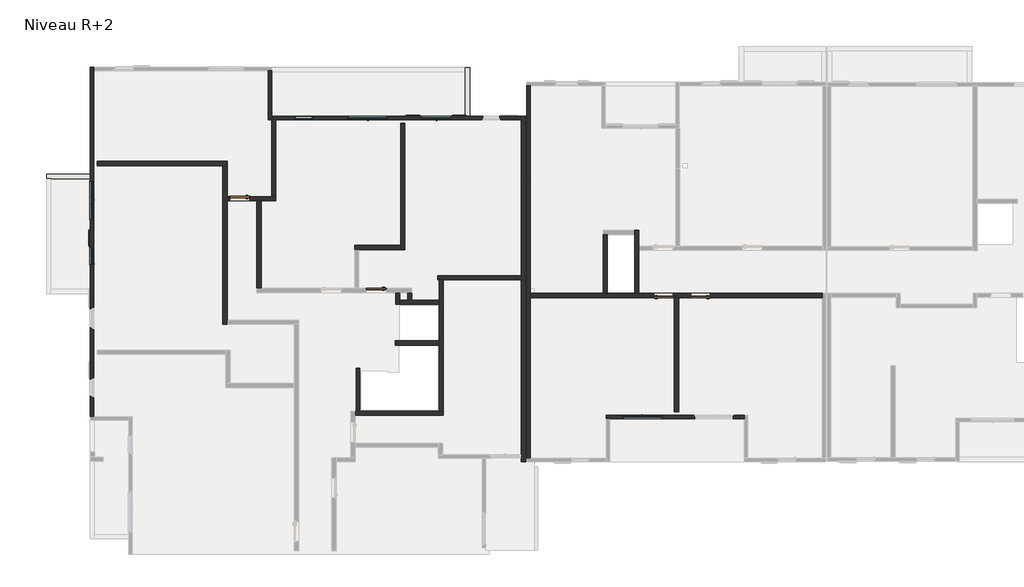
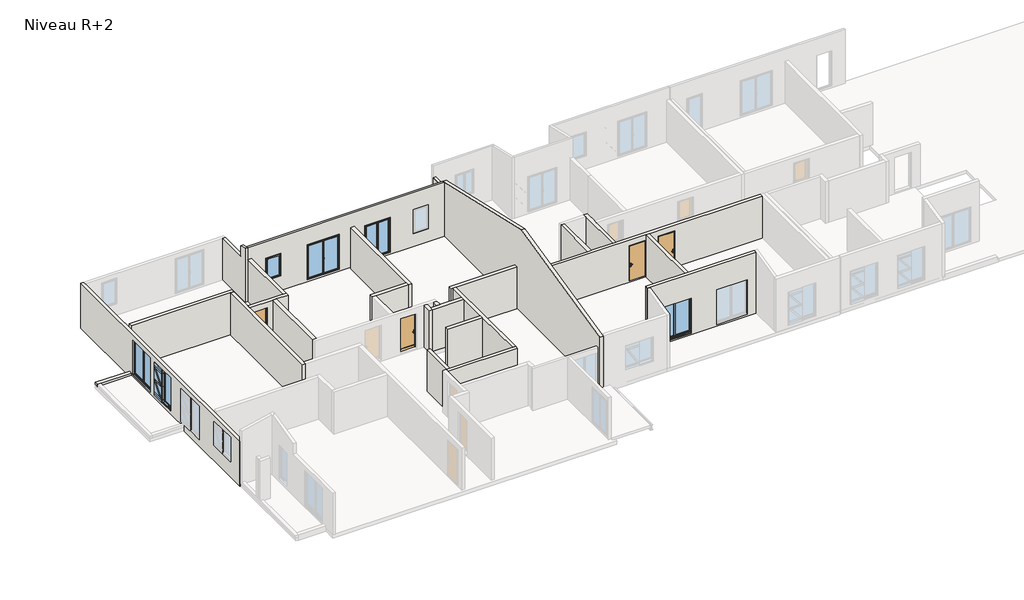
# One storey, part 3 of 7: 28 walls, 6 windows, 4 doors.
"""IFC4 building model written with IfcOpenShell, lengths in millimetres."""

from ifc_helpers import new_model, si_unit, frame, origin, place, context, project, spatial, polyline, outline, extrude, faceted_brep, transform, mapped, element, save
from components import door_88e42b76, door_c2c5d6f6, door_6208809c, window_0_80m_x_2_05m_45d8a1b5, window_1_vantail_droit_15c7afe6, window_1_40m_x_2_15m_9bc1c939, window_1_80m_x_2_15m_7d3a4370

model = new_model("IFC4")

# Units and contexts
model_context = context("Model", 3, world=origin())
ifc_project = project(units=[si_unit("LENGTHUNIT", "METRE", prefix="MILLI")], contexts=[model_context])

# Site, building, storey
site = spatial("IfcSite", under=ifc_project)
building = spatial("IfcBuilding", under=site)
storey = spatial("IfcBuildingStorey", under=building, Name="Niveau R+2", Elevation=6120.0)

# Doors
placement = place(None, origin())
door_shape = door_88e42b76(model_context)
element("IfcDoor", 1, ObjectType="Entrée (avec angle d'ouverture) : PP Avec moulures (0.90 m x 2.15 m)", at=placement, inside=storey, context=model_context, shape_type="MappedRepresentation", body=[
    mapped(door_shape, transform((31960.4628816, 22172.4973448, 6120.0), x_axis=(-1.0, 0.0, 0.0), y_axis=(0.0, -1.0, 0.0), z_axis=(0.0, 0.0, 1.0))),
])
door_2_shape = door_c2c5d6f6(model_context)
element("IfcDoor", 2, ObjectType="Entrée (avec angle d'ouverture) : PP Avec moulures (0.90 m x 2.15 m)", at=placement, inside=storey, context=model_context, shape_type="MappedRepresentation", body=[
    mapped(door_2_shape, transform((30253.8905888, 22172.4973448, 6120.0), x_axis=(1.0, 0.0, 0.0), y_axis=(0.0, 1.0, 0.0), z_axis=(0.0, 0.0, 1.0))),
])
door_3_shape = door_6208809c(model_context)
element("IfcDoor", 3, ObjectType="Entrée (avec angle d'ouverture) : PP Lisse (0.90 m x 2.15 m)", at=placement, inside=storey, context=model_context, shape_type="MappedRepresentation", body=[
    mapped(door_3_shape, transform((10498.0962852, 26677.1701287, 6120.0), x_axis=(-1.0, 0.0, 0.0), y_axis=(0.0, -1.0, 0.0), z_axis=(0.0, 0.0, 1.0))),
])
element("IfcDoor", 4, ObjectType="Entrée (avec angle d'ouverture) : PP Lisse (0.90 m x 2.15 m)", at=placement, inside=storey, context=model_context, shape_type="MappedRepresentation", body=[
    mapped(door_3_shape, transform((16855.0745996, 22408.2793913, 6120.0), x_axis=(-1.0, 0.0, 0.0), y_axis=(0.0, -1.0, 0.0), z_axis=(0.0, 0.0, 1.0))),
])

# Walls
element("IfcWall", 5, ObjectType="Ext. Voile BA 16 + Isolant 120", at=placement, inside=storey, context=model_context, shape_type="Brep", body=[
    faceted_brep([(34012.3966699, 16591.4013077, 6030.0), (27586.9796965, 16591.4013077, 6030.0), (27586.9796965, 16591.4013077, 9863.5516085), (34012.3966699, 16591.4013077, 9863.5516085), (31692.3966699, 16591.4013077, 6155.0), (33492.3966699, 16591.4013077, 6155.0), (33542.3966699, 16591.4013077, 6155.0), (33542.3966699, 16591.4013077, 8355.0), (31642.3966699, 16591.4013077, 8355.0), (31642.3966699, 16591.4013077, 6155.0), (28366.9796965, 16591.4013077, 6155.0), (30166.9796965, 16591.4013077, 6155.0), (30216.9796965, 16591.4013077, 6155.0), (30216.9796965, 16591.4013077, 8355.0), (28316.9796965, 16591.4013077, 8355.0), (28316.9796965, 16591.4013077, 6155.0), (27586.9796965, 16431.4013077, 6030.0), (34012.3966699, 16431.4013077, 6030.0), (34012.3966699, 16431.4013077, 9826.6126979), (27586.9796965, 16431.4013077, 9826.6126979), (33492.3966699, 16431.4013077, 8305.0), (33492.3966699, 16431.4013077, 6146.5916612), (31692.3966699, 16431.4013077, 6146.5916612), (31692.3966699, 16431.4013077, 8305.0), (30166.9796965, 16431.4013077, 8305.0), (30166.9796965, 16431.4013077, 6146.5916612), (28366.9796965, 16431.4013077, 6146.5916612), (28366.9796965, 16431.4013077, 8305.0), (33492.3966699, 16491.4013077, 8305.0), (33492.3966699, 16491.4013077, 6155.0), (33492.3966699, 16511.4013077, 6155.0), (31692.3966699, 16511.4013077, 6155.0), (31692.3966699, 16491.4013077, 6155.0), (31692.3966699, 16491.4013077, 8305.0), (33502.3966699, 16491.4013077, 6155.0), (33502.3966699, 16541.4013077, 6155.0), (33542.3966699, 16541.4013077, 6155.0), (31642.3966699, 16541.4013077, 6155.0), (31682.3966699, 16541.4013077, 6155.0), (31682.3966699, 16491.4013077, 6155.0), (33542.3966699, 16541.4013077, 8355.0), (31642.3966699, 16541.4013077, 8355.0), (33502.3966699, 16541.4013077, 8315.0), (31682.3966699, 16541.4013077, 8315.0), (33502.3966699, 16491.4013077, 8315.0), (31682.3966699, 16491.4013077, 8315.0), (30166.9796965, 16491.4013077, 8305.0), (30166.9796965, 16491.4013077, 6155.0), (30166.9796965, 16511.4013077, 6155.0), (28366.9796965, 16511.4013077, 6155.0), (28366.9796965, 16491.4013077, 6155.0), (28366.9796965, 16491.4013077, 8305.0), (30176.9796965, 16491.4013077, 6155.0), (30176.9796965, 16541.4013077, 6155.0), (30216.9796965, 16541.4013077, 6155.0), (28316.9796965, 16541.4013077, 6155.0), (28356.9796965, 16541.4013077, 6155.0), (28356.9796965, 16491.4013077, 6155.0), (30216.9796965, 16541.4013077, 8355.0), (28316.9796965, 16541.4013077, 8355.0), (30176.9796965, 16541.4013077, 8315.0), (28356.9796965, 16541.4013077, 8315.0), (30176.9796965, 16491.4013077, 8315.0), (28356.9796965, 16491.4013077, 8315.0)], [[[0, 1, 2, 3], [4, 5, 6, 7, 8, 9], [10, 11, 12, 13, 14, 15]], [[16, 17, 18, 19], [20, 21, 22, 23], [24, 25, 26, 27]], [[1, 0, 17, 16]], [[0, 3, 18, 17]], [[2, 1, 16, 19]], [[28, 29, 30, 21, 20]], [[31, 32, 33, 23, 22]], [[30, 29, 34, 35, 36, 6, 5, 4, 9, 37, 38, 39, 32, 31]], [[33, 28, 20, 23]], [[30, 31, 22, 21]], [[6, 36, 40, 7]], [[38, 37, 41, 40, 36, 35, 42, 43]], [[35, 34, 44, 42]], [[29, 28, 33, 32, 39, 45, 44, 34]], [[7, 40, 41, 8]], [[43, 42, 44, 45]], [[37, 9, 8, 41]], [[39, 38, 43, 45]], [[46, 47, 48, 25, 24]], [[49, 50, 51, 27, 26]], [[48, 47, 52, 53, 54, 12, 11, 10, 15, 55, 56, 57, 50, 49]], [[51, 46, 24, 27]], [[48, 49, 26, 25]], [[12, 54, 58, 13]], [[56, 55, 59, 58, 54, 53, 60, 61]], [[53, 52, 62, 60]], [[47, 46, 51, 50, 57, 63, 62, 52]], [[13, 58, 59, 14]], [[61, 60, 62, 63]], [[55, 15, 14, 59]], [[57, 56, 61, 63]], [[3, 2, 19, 18]]]),
])
element("IfcWall", 6, ObjectType="Ext. Voile BA 16 + Isolant 120", at=placement, inside=storey, context=model_context, shape_type="Brep", body=[
    faceted_brep([(24031.9389593, 27617.8380864, 6030.0), (24031.9389593, 31947.4974719, 6030.0), (24031.9389593, 31947.4974719, 8650.0), (24031.9389593, 27617.8380864, 8650.0), (24031.9389593, 27617.8380864, 8630.0), (23871.9389593, 27617.8380864, 6030.0), (23871.9389593, 27617.8380864, 8630.0), (23871.9389593, 27617.8380864, 8650.0), (23871.9389593, 31947.4974719, 8650.0), (23871.9389593, 31947.4974719, 6030.0), (23879.3814808, 27617.8380864, 8650.0), (23879.3814808, 31947.4974719, 8650.0)], [[[0, 1, 2, 3, 4]], [[5, 6, 7, 8, 9]], [[1, 0, 5, 9]], [[0, 4, 3, 10, 7, 6, 5]], [[2, 1, 9, 8, 11]], [[11, 8, 7, 10]], [[3, 2, 11, 10]]]),
])
element("IfcWall", 7, ObjectType="Ext. Voile BA 16 + Isolant 120", at=placement, inside=storey, context=model_context, shape_type="Brep", body=[
    faceted_brep([(3696.9058449, 32810.6398567, 8650.0), (3696.9058449, 32650.6398567, 8650.0), (3696.9058449, 16515.4652425, 8650.0), (3696.9058449, 16515.4652425, 6030.0), (3696.9058449, 32810.6398567, 6030.0), (3696.9058449, 27540.6398567, 6155.0), (3696.9058449, 25640.6398567, 6155.0), (3696.9058449, 25640.6398567, 8355.0), (3696.9058449, 27540.6398567, 8355.0), (3696.9058449, 24460.6398567, 6255.0), (3696.9058449, 23560.6398567, 6255.0), (3696.9058449, 23560.6398567, 8355.0), (3696.9058449, 24460.6398567, 8355.0), (3696.9058449, 21610.6398567, 6255.0), (3696.9058449, 20610.6398567, 6255.0), (3696.9058449, 20610.6398567, 8355.0), (3696.9058449, 21610.6398567, 8355.0), (3696.9058449, 18325.4652425, 6855.0), (3696.9058449, 17425.4652425, 6855.0), (3696.9058449, 17425.4652425, 8355.0), (3696.9058449, 18325.4652425, 8355.0), (3536.9058449, 16515.4652425, 8650.0), (3536.9058449, 32810.6398567, 8650.0), (3536.9058449, 32810.6398567, 5830.0), (3536.9058449, 27813.7289873, 5830.0), (3536.9058449, 27813.7289873, 6030.0), (3536.9058449, 22262.3094257, 6030.0), (3536.9058449, 22262.3094257, 5830.0), (3536.9058449, 16515.4652425, 5830.0), (3536.9058449, 16515.4652425, 6030.0), (3536.9058449, 25690.6398567, 8305.0), (3536.9058449, 25690.6398567, 6146.5916612), (3536.9058449, 27490.6398567, 6146.5916612), (3536.9058449, 27490.6398567, 8305.0), (3536.9058449, 23610.6398567, 8305.0), (3536.9058449, 23610.6398567, 6246.5916612), (3536.9058449, 24410.6398567, 6246.5916612), (3536.9058449, 24410.6398567, 8305.0), (3536.9058449, 20660.6398567, 8305.0), (3536.9058449, 20660.6398567, 6246.5916612), (3536.9058449, 21560.6398567, 6246.5916612), (3536.9058449, 21560.6398567, 8305.0), (3536.9058449, 17475.4652425, 8305.0), (3536.9058449, 17475.4652425, 6775.0), (3536.9058449, 18275.4652425, 6775.0), (3536.9058449, 18275.4652425, 8305.0), (3575.2220688, 32810.6398567, 5830.0), (3575.2220688, 27813.7289873, 5830.0), (3575.2220688, 22262.3094257, 5830.0), (3575.2220688, 16515.4652425, 5830.0), (3616.9058449, 25690.6398567, 6155.0), (3596.9058449, 25690.6398567, 8305.0), (3596.9058449, 25690.6398567, 6155.0), (3616.9058449, 27490.6398567, 6155.0), (3596.9058449, 27490.6398567, 6155.0), (3596.9058449, 27490.6398567, 8305.0), (3596.9058449, 25680.6398567, 6155.0), (3646.9058449, 25680.6398567, 6155.0), (3646.9058449, 25640.6398567, 6155.0), (3646.9058449, 27540.6398567, 6155.0), (3646.9058449, 27500.6398567, 6155.0), (3596.9058449, 27500.6398567, 6155.0), (3646.9058449, 25640.6398567, 8355.0), (3646.9058449, 25680.6398567, 8315.0), (3646.9058449, 27500.6398567, 8315.0), (3646.9058449, 27540.6398567, 8355.0), (3596.9058449, 25680.6398567, 8315.0), (3596.9058449, 27500.6398567, 8315.0), (3616.9058449, 23610.6398567, 6255.0), (3596.9058449, 23610.6398567, 8305.0), (3596.9058449, 23610.6398567, 6255.0), (3616.9058449, 24410.6398567, 6255.0), (3596.9058449, 24410.6398567, 6255.0), (3596.9058449, 24410.6398567, 8305.0), (3596.9058449, 23600.6398567, 6255.0), (3646.9058449, 23600.6398567, 6255.0), (3646.9058449, 23560.6398567, 6255.0), (3646.9058449, 24460.6398567, 6255.0), (3646.9058449, 24420.6398567, 6255.0), (3596.9058449, 24420.6398567, 6255.0), (3646.9058449, 23560.6398567, 8355.0), (3646.9058449, 23600.6398567, 8315.0), (3646.9058449, 24420.6398567, 8315.0), (3646.9058449, 24460.6398567, 8355.0), (3596.9058449, 23600.6398567, 8315.0), (3596.9058449, 24420.6398567, 8315.0), (3616.9058449, 20660.6398567, 6255.0), (3596.9058449, 20660.6398567, 8305.0), (3596.9058449, 20660.6398567, 6255.0), (3616.9058449, 21560.6398567, 6255.0), (3596.9058449, 21560.6398567, 6255.0), (3596.9058449, 21560.6398567, 8305.0), (3596.9058449, 20650.6398567, 6255.0), (3646.9058449, 20650.6398567, 6255.0), (3646.9058449, 20610.6398567, 6255.0), (3646.9058449, 21610.6398567, 6255.0), (3646.9058449, 21570.6398567, 6255.0), (3596.9058449, 21570.6398567, 6255.0), (3646.9058449, 20610.6398567, 8355.0), (3646.9058449, 20650.6398567, 8315.0), (3646.9058449, 21570.6398567, 8315.0), (3646.9058449, 21610.6398567, 8355.0), (3596.9058449, 20650.6398567, 8315.0), (3596.9058449, 21570.6398567, 8315.0), (3616.9058449, 17475.4652425, 6775.0), (3596.9058449, 17475.4652425, 8305.0), (3596.9058449, 17475.4652425, 6855.0), (3616.9058449, 17475.4652425, 6855.0), (3616.9058449, 18275.4652425, 6775.0), (3616.9058449, 18275.4652425, 6855.0), (3596.9058449, 18275.4652425, 6855.0), (3596.9058449, 18275.4652425, 8305.0), (3596.9058449, 17465.4652425, 6855.0), (3646.9058449, 17465.4652425, 6855.0), (3646.9058449, 17425.4652425, 6855.0), (3646.9058449, 18325.4652425, 6855.0), (3646.9058449, 18285.4652425, 6855.0), (3596.9058449, 18285.4652425, 6855.0), (3646.9058449, 17425.4652425, 8355.0), (3646.9058449, 17465.4652425, 8315.0), (3646.9058449, 18285.4652425, 8315.0), (3646.9058449, 18325.4652425, 8355.0), (3596.9058449, 17465.4652425, 8315.0), (3596.9058449, 18285.4652425, 8315.0), (3575.2220688, 16515.4652425, 6030.0), (3575.2220688, 32810.6398567, 6030.0), (3575.2220688, 27813.7289873, 6030.0), (3575.2220688, 22262.3094257, 6030.0)], [[[0, 1, 2, 3, 4], [5, 6, 7, 8], [9, 10, 11, 12], [13, 14, 15, 16], [17, 18, 19, 20]], [[21, 22, 23, 24, 25, 26, 27, 28, 29], [30, 31, 32, 33], [34, 35, 36, 37], [38, 39, 40, 41], [42, 43, 44, 45]], [[24, 23, 46, 47]], [[28, 27, 48, 49]], [[2, 1, 0, 22, 21]], [[50, 31, 30, 51, 52]], [[32, 53, 54, 55, 33]], [[31, 50, 53, 32]], [[51, 30, 33, 55]], [[50, 52, 56, 57, 58, 6, 5, 59, 60, 61, 54, 53]], [[6, 58, 62, 7]], [[58, 57, 63, 64, 60, 59, 65, 62]], [[57, 56, 66, 63]], [[52, 51, 55, 54, 61, 67, 66, 56]], [[7, 62, 65, 8]], [[64, 63, 66, 67]], [[59, 5, 8, 65]], [[61, 60, 64, 67]], [[68, 35, 34, 69, 70]], [[36, 71, 72, 73, 37]], [[35, 68, 71, 36]], [[69, 34, 37, 73]], [[68, 70, 74, 75, 76, 10, 9, 77, 78, 79, 72, 71]], [[10, 76, 80, 11]], [[76, 75, 81, 82, 78, 77, 83, 80]], [[75, 74, 84, 81]], [[70, 69, 73, 72, 79, 85, 84, 74]], [[11, 80, 83, 12]], [[82, 81, 84, 85]], [[77, 9, 12, 83]], [[79, 78, 82, 85]], [[86, 39, 38, 87, 88]], [[40, 89, 90, 91, 41]], [[39, 86, 89, 40]], [[87, 38, 41, 91]], [[86, 88, 92, 93, 94, 14, 13, 95, 96, 97, 90, 89]], [[14, 94, 98, 15]], [[94, 93, 99, 100, 96, 95, 101, 98]], [[93, 92, 102, 99]], [[88, 87, 91, 90, 97, 103, 102, 92]], [[15, 98, 101, 16]], [[100, 99, 102, 103]], [[95, 13, 16, 101]], [[97, 96, 100, 103]], [[104, 43, 42, 105, 106, 107]], [[44, 108, 109, 110, 111, 45]], [[43, 104, 108, 44]], [[105, 42, 45, 111]], [[107, 106, 112, 113, 114, 18, 17, 115, 116, 117, 110, 109]], [[18, 114, 118, 19]], [[114, 113, 119, 120, 116, 115, 121, 118]], [[113, 112, 122, 119]], [[106, 105, 111, 110, 117, 123, 122, 112]], [[19, 118, 121, 20]], [[120, 119, 122, 123]], [[115, 17, 20, 121]], [[117, 116, 120, 123]], [[2, 21, 29, 28, 49, 124, 3]], [[22, 0, 4, 125, 46, 23]], [[104, 107, 109, 108]], [[126, 125, 4, 3, 124, 127, 26, 25]], [[48, 127, 124, 49]], [[127, 48, 27, 26]], [[47, 126, 25, 24]], [[125, 126, 47, 46]]]),
])
element("IfcWall", 8, ObjectType="Ext. Voile BA 16 + Isolant 120", at=placement, inside=storey, context=model_context, shape_type="Brep", body=[
    faceted_brep([(11831.9058449, 32650.6398567, 6030.0), (11831.9058449, 30350.6398567, 6030.0), (11831.9058449, 30350.6398567, 9403.3012737), (11831.9058449, 30810.6398567, 9297.1019058), (11831.9058449, 30810.6398567, 8650.0), (11831.9058449, 32650.6398567, 8650.0), (11991.9058449, 32650.6398567, 6030.0), (11991.9058449, 32650.6398567, 8650.0), (11991.9058449, 30810.6398567, 8650.0), (11991.9058449, 30810.6398567, 9297.1019058), (11991.9058449, 30510.6398567, 9366.3623631), (11991.9058449, 30350.6398567, 9403.3012737), (11991.9058449, 30350.6398567, 6030.0), (11991.9058449, 30510.6398567, 6030.0)], [[[0, 1, 2, 3, 4, 5]], [[6, 7, 8, 9, 10, 11, 12, 13]], [[1, 0, 6, 13, 12]], [[0, 5, 7, 6]], [[2, 1, 12, 11]], [[5, 4, 8, 7]], [[8, 4, 3, 9]], [[3, 2, 11, 10, 9]]]),
])
element("IfcWall", 9, ObjectType="Ext. Voile BA 16 + Isolant 120", at=placement, inside=storey, context=model_context, shape_type="Brep", body=[
    faceted_brep([(23619.3795366, 30350.6398567, 9403.3012737), (11991.9058449, 30350.6398567, 9403.3012737), (11991.9058449, 30350.6398567, 8650.0), (11991.9058449, 30350.6398567, 6030.0), (12191.8651786, 30350.6398567, 6030.0), (23619.3795366, 30350.6398567, 6030.0), (13941.9058449, 30350.6398567, 6955.0), (13041.9058449, 30350.6398567, 6955.0), (13041.9058449, 30350.6398567, 8355.0), (13941.9058449, 30350.6398567, 8355.0), (17401.9058449, 30350.6398567, 6155.0), (15501.9058449, 30350.6398567, 6155.0), (15501.9058449, 30350.6398567, 8355.0), (17401.9058449, 30350.6398567, 8355.0), (20401.9058449, 30350.6398567, 6155.0), (18901.9058449, 30350.6398567, 6155.0), (18901.9058449, 30350.6398567, 8355.0), (20401.9058449, 30350.6398567, 8355.0), (22669.3795366, 30350.6398567, 6855.0), (21769.3795366, 30350.6398567, 6855.0), (21769.3795366, 30350.6398567, 8355.0), (22669.3795366, 30350.6398567, 8355.0), (23619.3795366, 30510.6398567, 9366.3623631), (23619.3795366, 30510.6398567, 6030.0), (23619.3795366, 30510.6398567, 5830.0), (21211.3655761, 30510.6398567, 5830.0), (21211.3655761, 30510.6398567, 6030.0), (11991.9058449, 30510.6398567, 6030.0), (11991.9058449, 30510.6398567, 9366.3623631), (13091.9058449, 30510.6398567, 8305.0), (13091.9058449, 30510.6398567, 6875.0), (13891.9058449, 30510.6398567, 6875.0), (13891.9058449, 30510.6398567, 8305.0), (15551.9058449, 30510.6398567, 8305.0), (15551.9058449, 30510.6398567, 6146.5916612), (17351.9058449, 30510.6398567, 6146.5916612), (17351.9058449, 30510.6398567, 8305.0), (18951.9058449, 30510.6398567, 8305.0), (18951.9058449, 30510.6398567, 6146.5916612), (20351.9058449, 30510.6398567, 6146.5916612), (20351.9058449, 30510.6398567, 8305.0), (21819.3795366, 30510.6398567, 8305.0), (21819.3795366, 30510.6398567, 6775.0), (22619.3795366, 30510.6398567, 6775.0), (22619.3795366, 30510.6398567, 8305.0), (23619.3795366, 30490.6398567, 5830.0), (21211.3655761, 30490.6398567, 5830.0), (13091.9058449, 30430.6398567, 6875.0), (13091.9058449, 30450.6398567, 8305.0), (13091.9058449, 30450.6398567, 6955.0), (13091.9058449, 30430.6398567, 6955.0), (13891.9058449, 30430.6398567, 6875.0), (13891.9058449, 30430.6398567, 6955.0), (13891.9058449, 30450.6398567, 6955.0), (13891.9058449, 30450.6398567, 8305.0), (13081.9058449, 30450.6398567, 6955.0), (13081.9058449, 30400.6398567, 6955.0), (13041.9058449, 30400.6398567, 6955.0), (13941.9058449, 30400.6398567, 6955.0), (13901.9058449, 30400.6398567, 6955.0), (13901.9058449, 30450.6398567, 6955.0), (13041.9058449, 30400.6398567, 8355.0), (13081.9058449, 30400.6398567, 8315.0), (13901.9058449, 30400.6398567, 8315.0), (13941.9058449, 30400.6398567, 8355.0), (13081.9058449, 30450.6398567, 8315.0), (13901.9058449, 30450.6398567, 8315.0), (15551.9058449, 30430.6398567, 6155.0), (15551.9058449, 30450.6398567, 8305.0), (15551.9058449, 30450.6398567, 6155.0), (17351.9058449, 30430.6398567, 6155.0), (17351.9058449, 30450.6398567, 6155.0), (17351.9058449, 30450.6398567, 8305.0), (15541.9058449, 30450.6398567, 6155.0), (15541.9058449, 30400.6398567, 6155.0), (15501.9058449, 30400.6398567, 6155.0), (17401.9058449, 30400.6398567, 6155.0), (17361.9058449, 30400.6398567, 6155.0), (17361.9058449, 30450.6398567, 6155.0), (15501.9058449, 30400.6398567, 8355.0), (15541.9058449, 30400.6398567, 8315.0), (17361.9058449, 30400.6398567, 8315.0), (17401.9058449, 30400.6398567, 8355.0), (15541.9058449, 30450.6398567, 8315.0), (17361.9058449, 30450.6398567, 8315.0), (18951.9058449, 30430.6398567, 6155.0), (18951.9058449, 30450.6398567, 8305.0), (18951.9058449, 30450.6398567, 6155.0), (20351.9058449, 30430.6398567, 6155.0), (20351.9058449, 30450.6398567, 6155.0), (20351.9058449, 30450.6398567, 8305.0), (18941.9058449, 30450.6398567, 6155.0), (18941.9058449, 30400.6398567, 6155.0), (18901.9058449, 30400.6398567, 6155.0), (20401.9058449, 30400.6398567, 6155.0), (20361.9058449, 30400.6398567, 6155.0), (20361.9058449, 30450.6398567, 6155.0), (18901.9058449, 30400.6398567, 8355.0), (18941.9058449, 30400.6398567, 8315.0), (20361.9058449, 30400.6398567, 8315.0), (20401.9058449, 30400.6398567, 8355.0), (18941.9058449, 30450.6398567, 8315.0), (20361.9058449, 30450.6398567, 8315.0), (21819.3795366, 30430.6398567, 6855.0), (21819.3795366, 30430.6398567, 6775.0), (21819.3795366, 30450.6398567, 8305.0), (21819.3795366, 30450.6398567, 6855.0), (22619.3795366, 30430.6398567, 6775.0), (22619.3795366, 30430.6398567, 6855.0), (22619.3795366, 30450.6398567, 6855.0), (22619.3795366, 30450.6398567, 8305.0), (21809.3795366, 30450.6398567, 6855.0), (21809.3795366, 30400.6398567, 6855.0), (21769.3795366, 30400.6398567, 6855.0), (22669.3795366, 30400.6398567, 6855.0), (22629.3795366, 30400.6398567, 6855.0), (22629.3795366, 30450.6398567, 6855.0), (21769.3795366, 30400.6398567, 8355.0), (21809.3795366, 30400.6398567, 8315.0), (22629.3795366, 30400.6398567, 8315.0), (22669.3795366, 30400.6398567, 8355.0), (21809.3795366, 30450.6398567, 8315.0), (22629.3795366, 30450.6398567, 8315.0), (23619.3795366, 30490.6398567, 6030.0), (21211.3655761, 30490.6398567, 6030.0)], [[[0, 1, 2, 3, 4, 5], [6, 7, 8, 9], [10, 11, 12, 13], [14, 15, 16, 17], [18, 19, 20, 21]], [[22, 23, 24, 25, 26, 27, 28], [29, 30, 31, 32], [33, 34, 35, 36], [37, 38, 39, 40], [41, 42, 43, 44]], [[25, 24, 45, 46]], [[1, 28, 27, 3, 2]], [[47, 30, 29, 48, 49, 50]], [[31, 51, 52, 53, 54, 32]], [[30, 47, 51, 31]], [[48, 29, 32, 54]], [[50, 49, 55, 56, 57, 7, 6, 58, 59, 60, 53, 52]], [[7, 57, 61, 8]], [[57, 56, 62, 63, 59, 58, 64, 61]], [[56, 55, 65, 62]], [[49, 48, 54, 53, 60, 66, 65, 55]], [[8, 61, 64, 9]], [[63, 62, 65, 66]], [[58, 6, 9, 64]], [[60, 59, 63, 66]], [[67, 34, 33, 68, 69]], [[35, 70, 71, 72, 36]], [[34, 67, 70, 35]], [[68, 33, 36, 72]], [[67, 69, 73, 74, 75, 11, 10, 76, 77, 78, 71, 70]], [[11, 75, 79, 12]], [[75, 74, 80, 81, 77, 76, 82, 79]], [[74, 73, 83, 80]], [[69, 68, 72, 71, 78, 84, 83, 73]], [[12, 79, 82, 13]], [[81, 80, 83, 84]], [[76, 10, 13, 82]], [[78, 77, 81, 84]], [[85, 38, 37, 86, 87]], [[39, 88, 89, 90, 40]], [[38, 85, 88, 39]], [[86, 37, 40, 90]], [[85, 87, 91, 92, 93, 15, 14, 94, 95, 96, 89, 88]], [[15, 93, 97, 16]], [[93, 92, 98, 99, 95, 94, 100, 97]], [[92, 91, 101, 98]], [[87, 86, 90, 89, 96, 102, 101, 91]], [[16, 97, 100, 17]], [[99, 98, 101, 102]], [[94, 14, 17, 100]], [[96, 95, 99, 102]], [[103, 104, 42, 41, 105, 106]], [[107, 108, 109, 110, 44, 43]], [[42, 104, 107, 43]], [[104, 103, 108, 107]], [[105, 41, 44, 110]], [[103, 106, 111, 112, 113, 19, 18, 114, 115, 116, 109, 108]], [[19, 113, 117, 20]], [[113, 112, 118, 119, 115, 114, 120, 117]], [[112, 111, 121, 118]], [[106, 105, 110, 109, 116, 122, 121, 111]], [[20, 117, 120, 21]], [[119, 118, 121, 122]], [[114, 18, 21, 120]], [[116, 115, 119, 122]], [[24, 23, 22, 0, 5, 123, 45]], [[1, 0, 22, 28]], [[47, 50, 52, 51]], [[26, 124, 123, 5, 4, 3, 27]], [[46, 124, 26, 25]], [[124, 46, 45, 123]]]),
])
element("IfcWall", 10, ObjectType="Ext. Voile BA 20", at=placement, inside=storey, context=model_context, shape_type="Brep", body=[
    faceted_brep([(21211.3655761, 32790.6398567, 6180.0), (21211.3655761, 30510.6398567, 6180.0), (21211.3655761, 30510.6398567, 6030.0), (21211.3655761, 32790.6398567, 6030.0), (21011.3655761, 30510.6398567, 6180.0), (21011.3655761, 32590.6398567, 6180.0), (21011.3655761, 32790.6398567, 6180.0), (21011.3655761, 32790.6398567, 6030.0), (21011.3655761, 32590.6398567, 6030.0), (21011.3655761, 30510.6398567, 6030.0)], [[[0, 1, 2, 3]], [[4, 5, 6, 7, 8, 9]], [[1, 0, 6, 5, 4]], [[1, 4, 9, 2]], [[6, 0, 3, 7]], [[3, 2, 9, 8, 7]]]),
])
element("IfcWall", 11, ObjectType="Voile BA 16", at=placement, inside=storey, context=model_context, shape_type="Brep", body=[
    faceted_brep([(23871.9389593, 27617.8380864, 6030.0), (23871.9389593, 14597.8380864, 6030.0), (23871.9389593, 14597.8380864, 8630.0), (23871.9389593, 27617.8380864, 8630.0), (24031.9389593, 27617.8380864, 6030.0), (24031.9389593, 27617.8380864, 8630.0), (24031.9389593, 14597.8380864, 8630.0), (24031.9389593, 14597.8380864, 6030.0), (24031.9389593, 22072.4973448, 6030.0), (24031.9389593, 22272.4973448, 6030.0)], [[[0, 1, 2, 3]], [[4, 5, 6, 7, 8, 9]], [[1, 0, 4, 9, 8, 7]], [[3, 2, 6, 5]], [[0, 3, 5, 4]], [[2, 1, 7, 6]]]),
])
element("IfcWall", 12, ObjectType="Voile BA 18 + 1 + 1", at=placement, inside=storey, context=model_context, shape_type="Brep", body=[
    faceted_brep([(23619.3795366, 23103.1587423, 6030.0), (19729.8426061, 23103.1587423, 6030.0), (19729.8426061, 23103.1587423, 8650.0), (23619.3795366, 23103.1587423, 8650.0), (23619.3795366, 22903.1587423, 6030.0), (23619.3795366, 22903.1587423, 8650.0), (19989.8425091, 22903.1587423, 8650.0), (19809.8425091, 22903.1587423, 8650.0), (19729.8426061, 22903.1587423, 8650.0), (19729.8426061, 22903.1587423, 6030.0), (19809.8425091, 22903.1587423, 6030.0), (19989.8425091, 22903.1587423, 6030.0)], [[[0, 1, 2, 3]], [[4, 5, 6, 7, 8, 9, 10, 11]], [[1, 0, 4, 11, 10, 9]], [[2, 1, 9, 8]], [[3, 2, 8, 7, 6, 5]], [[0, 3, 5, 4]]]),
])
element("IfcWall", 13, ObjectType="Voile BA 18 + 6", at=placement, inside=storey, context=model_context, shape_type="Brep", body=[
    faceted_brep([(15875.9659642, 16600.9152593, 6030.0), (19989.8425091, 16600.9152593, 6030.0), (19989.8425091, 16600.9152593, 8650.0), (15875.9659642, 16600.9152593, 8650.0), (15875.9659642, 16780.9152593, 6030.0), (15875.9659642, 16780.9152593, 8650.0), (15926.1727456, 16780.9152593, 8650.0), (16106.1727456, 16780.9152593, 8650.0), (19809.8425091, 16780.9152593, 8650.0), (19989.8425091, 16780.9152593, 8650.0), (19989.8425091, 16780.9152593, 6030.0), (19809.8425091, 16780.9152593, 6030.0), (16106.1727456, 16780.9152593, 6030.0), (15926.1727456, 16780.9152593, 6030.0)], [[[0, 1, 2, 3]], [[4, 5, 6, 7, 8, 9, 10, 11, 12, 13]], [[1, 0, 4, 13, 12, 11, 10]], [[3, 2, 9, 8, 7, 6, 5]], [[0, 3, 5, 4]], [[2, 1, 10, 9]]]),
])
element("IfcWall", 14, ObjectType="Voile BA 18 + 6", at=placement, inside=storey, context=model_context, shape_type="Brep", body=[
    faceted_brep([(19989.8425091, 16780.9152593, 6030.0), (19989.8425091, 22903.1587423, 6030.0), (19989.8425091, 22903.1587423, 8650.0), (19989.8425091, 16780.9152593, 8650.0), (19809.8425091, 16780.9152593, 6030.0), (19809.8425091, 16780.9152593, 8650.0), (19809.8425091, 19864.6101745, 8650.0), (19809.8425091, 20064.6101745, 8650.0), (19809.8425091, 21756.9971496, 8650.0), (19809.8425091, 21956.9971496, 8650.0), (19809.8425091, 22903.1587423, 8650.0), (19809.8425091, 22903.1587423, 6030.0), (19809.8425091, 21956.9971496, 6030.0), (19809.8425091, 21756.9971496, 6030.0), (19809.8425091, 20064.6101745, 6030.0), (19809.8425091, 19864.6101745, 6030.0)], [[[0, 1, 2, 3]], [[4, 5, 6, 7, 8, 9, 10, 11, 12, 13, 14, 15]], [[1, 0, 4, 15, 14, 13, 12, 11]], [[3, 2, 10, 9, 8, 7, 6, 5]], [[2, 1, 11, 10]], [[0, 3, 5, 4]]]),
])
element("IfcWall", 15, ObjectType="Voile BA 18 + 6", at=placement, inside=storey, context=model_context, shape_type="SweptSolid", body=[
    extrude(outline(polyline([(15926.1727456, 16780.9152593), (15926.1727456, 18786.3936407), (16106.1727456, 18786.3936407), (16106.1727456, 16780.9152593), (15926.1727456, 16780.9152593)])), frame((0.0, 0.0, 6030.0), z_axis=(0.0, 0.0, 1.0), x_axis=(1.0, 0.0, 0.0)), (0.0, 0.0, 1.0), 2620.0),
])
element("IfcWall", 16, ObjectType="Voile BA 20", at=placement, inside=storey, context=model_context, shape_type="SweptSolid", body=[
    extrude(outline(polyline([(30743.8905888, 16752.4013077), (30743.8905888, 22072.4973448), (30943.8905888, 22072.4973448), (30943.8905888, 16752.4013077), (30743.8905888, 16752.4013077)])), frame((0.0, 0.0, 6030.0), z_axis=(0.0, 0.0, 1.0), x_axis=(1.0, 0.0, 0.0)), (0.0, 0.0, 1.0), 2620.0),
])
element("IfcWall", 17, ObjectType="Voile BA 20", at=placement, inside=storey, context=model_context, shape_type="Brep", body=[
    faceted_brep([(23819.3795366, 14437.8369553, 6030.0), (23819.3795366, 30510.6398567, 6030.0), (23819.3795366, 30510.6398567, 9366.3623631), (23819.3795366, 22475.7382882, 11221.3655541), (23819.3795366, 14437.8369553, 9365.6698129), (23619.3795366, 30510.6398567, 6030.0), (23619.3795366, 30490.6398567, 6030.0), (23619.3795366, 30350.6398567, 6030.0), (23619.3795366, 23103.1587423, 6030.0), (23619.3795366, 22903.1587423, 6030.0), (23619.3795366, 14760.8367198, 6030.0), (23619.3795366, 14600.8367198, 6030.0), (23619.3795366, 14437.8369553, 6030.0), (23619.3795366, 14437.8369553, 9365.6698129), (23619.3795366, 22475.7382882, 11221.3655541), (23619.3795366, 30350.6398567, 9403.3012737), (23619.3795366, 30510.6398567, 9366.3623631), (23619.3795366, 14710.8367198, 6155.0), (23619.3795366, 14760.8367198, 6155.0), (23619.3795366, 14760.8367198, 8355.0), (23619.3795366, 14710.8367198, 8355.0), (23635.8013446, 14710.8367198, 6155.0), (23635.8013446, 14760.8367198, 6155.0), (23635.8013446, 14710.8367198, 8355.0), (23635.8013446, 14760.8367198, 8355.0)], [[[0, 1, 2, 3, 4]], [[5, 6, 7, 8, 9, 10, 11, 12, 13, 14, 15, 16], [17, 18, 19, 20]], [[1, 0, 12, 11, 10, 9, 8, 7, 6, 5]], [[0, 4, 13, 12]], [[21, 22, 18, 17]], [[22, 21, 23, 24]], [[23, 21, 17, 20]], [[22, 24, 19, 18]], [[24, 23, 20, 19]], [[1, 5, 16, 2]], [[13, 4, 3, 14]], [[2, 16, 15, 14, 3]]]),
])
element("IfcWall", 18, ObjectType="Voile BA 20", at=placement, inside=storey, context=model_context, shape_type="Brep", body=[
    faceted_brep([(9925.0967812, 28424.6168533, 6030.0), (3857.9058449, 28424.6168533, 6030.0), (3857.9058449, 28424.6168533, 8650.0), (9925.0967812, 28424.6168533, 8650.0), (9925.0967812, 28224.6168533, 6030.0), (9925.0967812, 28224.6168533, 8650.0), (9725.0967812, 28224.6168533, 8650.0), (3857.9058449, 28224.6168533, 8650.0), (3857.9058449, 28224.6168533, 6030.0), (9725.0967812, 28224.6168533, 6030.0)], [[[0, 1, 2, 3]], [[4, 5, 6, 7, 8, 9]], [[1, 0, 4, 9, 8]], [[2, 1, 8, 7]], [[3, 2, 7, 6, 5]], [[0, 3, 5, 4]]]),
])
element("IfcWall", 19, ObjectType="Voile BA 20", at=placement, inside=storey, context=model_context, shape_type="SweptSolid", body=[
    extrude(outline(polyline([(12191.8651786, 30350.6398567), (12191.8651786, 26777.1701287), (11991.8651786, 26777.1701287), (11991.8651786, 30350.6398567), (12191.8651786, 30350.6398567)])), frame((0.0, 0.0, 6030.0), z_axis=(0.0, 0.0, 1.0), x_axis=(1.0, 0.0, 0.0)), (0.0, 0.0, 1.0), 2620.0),
])
element("IfcWall", 20, ObjectType="Voile BA 20", at=placement, inside=storey, context=model_context, shape_type="Brep", body=[
    faceted_brep([(17997.5327635, 30189.6398567, 6030.0), (17997.5327635, 24503.1590231, 6030.0), (17997.5327635, 24303.1590231, 6030.0), (17997.5327635, 24303.1590231, 8650.0), (17997.5327635, 24503.1590231, 8650.0), (17997.5327635, 30189.6398567, 8650.0), (18197.5327635, 30189.6398567, 6030.0), (18197.5327635, 30189.6398567, 8650.0), (18197.5327635, 24303.1590231, 8650.0), (18197.5327635, 24303.1590231, 6030.0)], [[[0, 1, 2, 3, 4, 5]], [[6, 7, 8, 9]], [[2, 1, 0, 6, 9]], [[5, 4, 3, 8, 7]], [[0, 5, 7, 6]], [[3, 2, 9, 8]]]),
])
element("IfcWall", 21, ObjectType="Voile BA 20", at=placement, inside=storey, context=model_context, shape_type="Brep", body=[
    faceted_brep([(17997.5327635, 24503.1590231, 6030.0), (15851.5704733, 24503.1590231, 6030.0), (15851.5704733, 24503.1590231, 8650.0), (17997.5327635, 24503.1590231, 8650.0), (17997.5327635, 24303.1590231, 6030.0), (17997.5327635, 24303.1590231, 8650.0), (16051.5704733, 24303.1590231, 8650.0), (15851.5704733, 24303.1590231, 8650.0), (15851.5704733, 24303.1590231, 6030.0), (16051.5704733, 24303.1590231, 6030.0)], [[[0, 1, 2, 3]], [[4, 5, 6, 7, 8, 9]], [[1, 0, 4, 9, 8]], [[3, 2, 7, 6, 5]], [[0, 3, 5, 4]], [[2, 1, 8, 7]]]),
])
element("IfcWall", 22, ObjectType="Voile BA 20", at=placement, inside=storey, context=model_context, shape_type="SweptSolid", body=[
    extrude(outline(polyline([(17759.7079091, 20064.6101745), (19809.8425091, 20064.6101745), (19809.8425091, 19864.6101745), (17759.7079091, 19864.6101745), (17759.7079091, 20064.6101745)])), frame((0.0, 0.0, 6030.0), z_axis=(0.0, 0.0, 1.0), x_axis=(1.0, 0.0, 0.0)), (0.0, 0.0, 1.0), 2620.0),
])
element("IfcWall", 23, ObjectType="Voile BA 20", at=placement, inside=storey, context=model_context, shape_type="Brep", body=[
    faceted_brep([(17765.0745996, 22308.2793913, 6030.0), (17765.0745996, 21756.9971496, 6030.0), (17765.0745996, 21756.9971496, 8650.0), (17765.0745996, 22308.2793913, 8650.0), (17965.0745996, 22308.2793913, 6030.0), (17965.0745996, 22308.2793913, 8650.0), (17965.0745996, 21956.9971496, 8650.0), (17965.0745996, 21756.9971496, 8650.0), (17965.0745996, 21756.9971496, 6030.0), (17965.0745996, 21956.9971496, 6030.0)], [[[0, 1, 2, 3]], [[4, 5, 6, 7, 8, 9]], [[1, 0, 4, 9, 8]], [[3, 2, 7, 6, 5]], [[2, 1, 8, 7]], [[0, 3, 5, 4]]]),
])
element("IfcWall", 24, ObjectType="Voile BA 20", at=placement, inside=storey, context=model_context, shape_type="SweptSolid", body=[
    extrude(outline(polyline([(18319.8867117, 21956.9971496), (18319.8867117, 22308.2793913), (18519.8867117, 22308.2793913), (18519.8867117, 21956.9971496), (18319.8867117, 21956.9971496)])), frame((0.0, 0.0, 6030.0), z_axis=(0.0, 0.0, 1.0), x_axis=(1.0, 0.0, 0.0)), (0.0, 0.0, 1.0), 2620.0),
])
element("IfcWall", 25, ObjectType="Voile BA 20", at=placement, inside=storey, context=model_context, shape_type="Brep", body=[
    faceted_brep([(3530.7006162, 27813.7289873, 6030.0), (1507.5836831, 27813.7289873, 6030.0), (1507.5836831, 27813.7289873, 6180.0), (3530.7006162, 27813.7289873, 6180.0), (3530.7006162, 27613.7289873, 6030.0), (3530.7006162, 27613.7289873, 6180.0), (1707.5836831, 27613.7289873, 6180.0), (1507.5836831, 27613.7289873, 6180.0), (1507.5836831, 27613.7289873, 6030.0), (1707.5836831, 27613.7289873, 6030.0)], [[[0, 1, 2, 3]], [[4, 5, 6, 7, 8, 9]], [[1, 0, 4, 9, 8]], [[3, 2, 7, 6, 5]], [[0, 3, 5, 4]], [[2, 1, 8, 7]]]),
])
element("IfcWall", 26, ObjectType="Voile BA 20 + Isolant 60", at=placement, inside=storey, context=model_context, shape_type="Brep", body=[
    faceted_brep([(24031.9389593, 22072.4973448, 6030.0), (30743.8905888, 22072.4973448, 6030.0), (30943.8905888, 22072.4973448, 6030.0), (37639.4832806, 22072.4973448, 6030.0), (37639.4832806, 22072.4973448, 8650.0), (30943.8905888, 22072.4973448, 8650.0), (30743.8905888, 22072.4973448, 8650.0), (24031.9389593, 22072.4973448, 8650.0), (31510.4628816, 22072.4973448, 6120.0), (31480.4628816, 22072.4973448, 6120.0), (31480.4628816, 22072.4973448, 8310.0), (32460.4628816, 22072.4973448, 8310.0), (32460.4628816, 22072.4973448, 6120.0), (32430.4628816, 22072.4973448, 6120.0), (29783.8905888, 22072.4973448, 6120.0), (29753.8905888, 22072.4973448, 6120.0), (29753.8905888, 22072.4973448, 8310.0), (30733.8905888, 22072.4973448, 8310.0), (30733.8905888, 22072.4973448, 6120.0), (30703.8905888, 22072.4973448, 6120.0), (37639.4832806, 22272.4973448, 6030.0), (29098.3678937, 22272.4973448, 6030.0), (28898.3678937, 22272.4973448, 6030.0), (27626.9395184, 22272.4973448, 6030.0), (27426.9395184, 22272.4973448, 6030.0), (24031.9389593, 22272.4973448, 6030.0), (24031.9389593, 22272.4973448, 8650.0), (27426.9395184, 22272.4973448, 8650.0), (27626.9395184, 22272.4973448, 8650.0), (28898.3678937, 22272.4973448, 8650.0), (29098.3678937, 22272.4973448, 8650.0), (37639.4832806, 22272.4973448, 8650.0), (32430.4628816, 22272.4973448, 8280.0), (31510.4628816, 22272.4973448, 8280.0), (31510.4628816, 22272.4973448, 6120.0), (32430.4628816, 22272.4973448, 6120.0), (30703.8905888, 22272.4973448, 8280.0), (29783.8905888, 22272.4973448, 8280.0), (29783.8905888, 22272.4973448, 6120.0), (30703.8905888, 22272.4973448, 6120.0), (32430.4628816, 22172.4973448, 8280.0), (31510.4628816, 22172.4973448, 8280.0), (32445.4628816, 22172.4973448, 6120.0), (32430.4628816, 22172.4973448, 6120.0), (31510.4628816, 22172.4973448, 6120.0), (31495.4628816, 22172.4973448, 6120.0), (31495.4628816, 22129.4973448, 6120.0), (31480.4628816, 22129.4973448, 6120.0), (32460.4628816, 22129.4973448, 6120.0), (32445.4628816, 22129.4973448, 6120.0), (32460.4628816, 22129.4973448, 8310.0), (31480.4628816, 22129.4973448, 8310.0), (31495.4628816, 22129.4973448, 8295.0), (32445.4628816, 22129.4973448, 8295.0), (32445.4628816, 22172.4973448, 8295.0), (31495.4628816, 22172.4973448, 8295.0), (30703.8905888, 22172.4973448, 8280.0), (29783.8905888, 22172.4973448, 8280.0), (29783.8905888, 22172.4973448, 6120.0), (29768.8905888, 22172.4973448, 6120.0), (29768.8905888, 22129.4973448, 6120.0), (29753.8905888, 22129.4973448, 6120.0), (30733.8905888, 22129.4973448, 6120.0), (30718.8905888, 22129.4973448, 6120.0), (30718.8905888, 22172.4973448, 6120.0), (30703.8905888, 22172.4973448, 6120.0), (29768.8905888, 22129.4973448, 8295.0), (30718.8905888, 22129.4973448, 8295.0), (30733.8905888, 22129.4973448, 8310.0), (29753.8905888, 22129.4973448, 8310.0), (29768.8905888, 22172.4973448, 8295.0), (30718.8905888, 22172.4973448, 8295.0)], [[[0, 1, 2, 3, 4, 5, 6, 7], [8, 9, 10, 11, 12, 13], [14, 15, 16, 17, 18, 19]], [[20, 21, 22, 23, 24, 25, 26, 27, 28, 29, 30, 31], [32, 33, 34, 35], [36, 37, 38, 39]], [[3, 2, 1, 0, 25, 24, 23, 22, 21, 20]], [[7, 6, 5, 4, 31, 30, 29, 28, 27, 26]], [[0, 7, 26, 25]], [[40, 41, 33, 32]], [[42, 43, 35, 34, 44, 45, 46, 47, 9, 8, 13, 12, 48, 49]], [[41, 44, 34, 33]], [[43, 40, 32, 35]], [[49, 48, 50, 51, 47, 46, 52, 53]], [[48, 12, 11, 50]], [[51, 50, 11, 10]], [[9, 47, 51, 10]], [[42, 49, 53, 54]], [[41, 40, 43, 42, 54, 55, 45, 44]], [[53, 52, 55, 54]], [[46, 45, 55, 52]], [[56, 57, 37, 36]], [[58, 59, 60, 61, 15, 14, 19, 18, 62, 63, 64, 65, 39, 38]], [[65, 56, 36, 39]], [[57, 58, 38, 37]], [[61, 60, 66, 67, 63, 62, 68, 69]], [[15, 61, 69, 16]], [[69, 68, 17, 16]], [[62, 18, 17, 68]], [[60, 59, 70, 66]], [[57, 56, 65, 64, 71, 70, 59, 58]], [[67, 66, 70, 71]], [[64, 63, 67, 71]], [[4, 3, 20, 31]]]),
])
element("IfcWall", 27, ObjectType="Voile BA 20 + Isolant 60", at=placement, inside=storey, context=model_context, shape_type="Brep", body=[
    faceted_brep([(29098.3678937, 22272.4973448, 6030.0), (29098.3678937, 24272.4965623, 6030.0), (29098.3678937, 24472.4965623, 6030.0), (29098.3678937, 25207.8260092, 6030.0), (29098.3678937, 25207.8260092, 8650.0), (29098.3678937, 24472.4965623, 8650.0), (29098.3678937, 24272.4965623, 8650.0), (29098.3678937, 22272.4973448, 8650.0), (28898.3678937, 22272.4973448, 6030.0), (28898.3678937, 22272.4973448, 8650.0), (28898.3678937, 25007.8260092, 8650.0), (28898.3678937, 25207.8260092, 8650.0), (28898.3678937, 25207.8260092, 6030.0), (28898.3678937, 25007.8260092, 6030.0)], [[[0, 1, 2, 3, 4, 5, 6, 7]], [[8, 9, 10, 11, 12, 13]], [[3, 2, 1, 0, 8, 13, 12]], [[7, 6, 5, 4, 11, 10, 9]], [[0, 7, 9, 8]], [[4, 3, 12, 11]]]),
])
element("IfcWall", 28, ObjectType="Voile BA 20 + Isolant 60", at=placement, inside=storey, context=model_context, shape_type="SweptSolid", body=[
    extrude(outline(polyline([(27426.9395184, 22272.4973448), (27426.9395184, 25007.8260092), (27626.9395184, 25007.8260092), (27626.9395184, 22272.4973448), (27426.9395184, 22272.4973448)])), frame((0.0, 0.0, 6030.0), z_axis=(0.0, 0.0, 1.0), x_axis=(1.0, 0.0, 0.0)), (0.0, 0.0, 1.0), 2620.0),
])
element("IfcWall", 29, ObjectType="Voile BA 20 + Isolant 60", at=placement, inside=storey, context=model_context, shape_type="SweptSolid", body=[
    extrude(outline(polyline([(11499.8867117, 26577.1701287), (11499.8867117, 22508.2793913), (11299.8867117, 22508.2793913), (11299.8867117, 26577.1701287), (11499.8867117, 26577.1701287)])), frame((0.0, 0.0, 6030.0), z_axis=(0.0, 0.0, 1.0), x_axis=(1.0, 0.0, 0.0)), (0.0, 0.0, 1.0), 2620.0),
])
element("IfcWall", 30, ObjectType="Voile BA 20 + Isolant 60", at=placement, inside=storey, context=model_context, shape_type="Brep", body=[
    faceted_brep([(12191.8651786, 26777.1701287, 6030.0), (11991.8651786, 26777.1701287, 6030.0), (9925.0967812, 26777.1701287, 6030.0), (9925.0967812, 26777.1701287, 8650.0), (11991.8651786, 26777.1701287, 8650.0), (12191.8651786, 26777.1701287, 8650.0), (10968.0962852, 26777.1701287, 6120.0), (10998.0962852, 26777.1701287, 6120.0), (10998.0962852, 26777.1701287, 8310.0), (10018.0962852, 26777.1701287, 8310.0), (10018.0962852, 26777.1701287, 6120.0), (10048.0962852, 26777.1701287, 6120.0), (9925.0967812, 26577.1701287, 6030.0), (11299.8867117, 26577.1701287, 6030.0), (11499.8867117, 26577.1701287, 6030.0), (12191.8651786, 26577.1701287, 6030.0), (12191.8651786, 26577.1701287, 8650.0), (11499.8867117, 26577.1701287, 8650.0), (11299.8867117, 26577.1701287, 8650.0), (9925.0967812, 26577.1701287, 8650.0), (10048.0962852, 26577.1701287, 8280.0), (10968.0962852, 26577.1701287, 8280.0), (10968.0962852, 26577.1701287, 6120.0), (10048.0962852, 26577.1701287, 6120.0), (10048.0962852, 26677.1701287, 8280.0), (10968.0962852, 26677.1701287, 8280.0), (10968.0962852, 26677.1701287, 6120.0), (10983.0962852, 26677.1701287, 6120.0), (10983.0962852, 26720.1701287, 6120.0), (10998.0962852, 26720.1701287, 6120.0), (10018.0962852, 26720.1701287, 6120.0), (10033.0962852, 26720.1701287, 6120.0), (10033.0962852, 26677.1701287, 6120.0), (10048.0962852, 26677.1701287, 6120.0), (10983.0962852, 26720.1701287, 8295.0), (10033.0962852, 26720.1701287, 8295.0), (10018.0962852, 26720.1701287, 8310.0), (10998.0962852, 26720.1701287, 8310.0), (10983.0962852, 26677.1701287, 8295.0), (10033.0962852, 26677.1701287, 8295.0)], [[[0, 1, 2, 3, 4, 5], [6, 7, 8, 9, 10, 11]], [[12, 13, 14, 15, 16, 17, 18, 19], [20, 21, 22, 23]], [[2, 1, 0, 15, 14, 13, 12]], [[5, 4, 3, 19, 18, 17, 16]], [[0, 5, 16, 15]], [[24, 25, 21, 20]], [[26, 27, 28, 29, 7, 6, 11, 10, 30, 31, 32, 33, 23, 22]], [[33, 24, 20, 23]], [[25, 26, 22, 21]], [[29, 28, 34, 35, 31, 30, 36, 37]], [[7, 29, 37, 8]], [[37, 36, 9, 8]], [[30, 10, 9, 36]], [[28, 27, 38, 34]], [[25, 24, 33, 32, 39, 38, 27, 26]], [[35, 34, 38, 39]], [[32, 31, 35, 39]], [[3, 2, 12, 19]]]),
])
element("IfcWall", 31, ObjectType="Voile BA 20 + Isolant 60", at=placement, inside=storey, context=model_context, shape_type="Brep", body=[
    faceted_brep([(9725.0967812, 28224.6168533, 6030.0), (9725.0967812, 20828.4825692, 6030.0), (9725.0967812, 20828.4825692, 8650.0), (9725.0967812, 28224.6168533, 8650.0), (9925.0967812, 28224.6168533, 6030.0), (9925.0967812, 28224.6168533, 8650.0), (9925.0967812, 26777.1701287, 8650.0), (9925.0967812, 26577.1701287, 8650.0), (9925.0967812, 21028.4825692, 8650.0), (9925.0967812, 20828.4825692, 8650.0), (9925.0967812, 20828.4825692, 6030.0), (9925.0967812, 21028.4825692, 6030.0), (9925.0967812, 26577.1701287, 6030.0), (9925.0967812, 26777.1701287, 6030.0)], [[[0, 1, 2, 3]], [[4, 5, 6, 7, 8, 9, 10, 11, 12, 13]], [[1, 0, 4, 13, 12, 11, 10]], [[3, 2, 9, 8, 7, 6, 5]], [[2, 1, 10, 9]], [[0, 3, 5, 4]]]),
])
element("IfcWall", 32, ObjectType="Voile BA 20 + Isolant 60", at=placement, inside=storey, context=model_context, shape_type="Brep", body=[
    faceted_brep([(19809.8425091, 21956.9971496, 6030.0), (18519.8867117, 21956.9971496, 6030.0), (18319.8867117, 21956.9971496, 6030.0), (17965.0745996, 21956.9971496, 6030.0), (17965.0745996, 21956.9971496, 8650.0), (18319.8867117, 21956.9971496, 8650.0), (18519.8867117, 21956.9971496, 8650.0), (19809.8425091, 21956.9971496, 8650.0), (19809.8425091, 21756.9971496, 6030.0), (19809.8425091, 21756.9971496, 8650.0), (17965.0745996, 21756.9971496, 8650.0), (17965.0745996, 21756.9971496, 6030.0)], [[[0, 1, 2, 3, 4, 5, 6, 7]], [[8, 9, 10, 11]], [[3, 2, 1, 0, 8, 11]], [[7, 6, 5, 4, 10, 9]], [[0, 7, 9, 8]], [[4, 3, 11, 10]]]),
])

# Windows
window_0_80m_x_2_05m_shape = window_0_80m_x_2_05m_45d8a1b5(model_context)
element("IfcWindow", 33, ObjectType="PF 1 Vantail droit - Volet et petits bois : 0.80m x 2.05m", at=placement, inside=storey, context=model_context, shape_type="MappedRepresentation", body=[
    mapped(window_0_80m_x_2_05m_shape, transform((3616.9058449, 24010.6398567, 6220.0), x_axis=(0.0, 1.0, 0.0), y_axis=(-1.0, 0.0, 0.0), z_axis=(0.0, 0.0, 1.0))),
])
window_1_vantail_droit_shape = window_1_vantail_droit_15c7afe6(model_context)
element("IfcWindow", 34, ObjectType="1 Vantail - Droit : 0.80m x 1.35m - Appui Béton", at=placement, inside=storey, context=model_context, shape_type="MappedRepresentation", body=[
    mapped(window_1_vantail_droit_shape, transform((13491.9058449, 30430.6398567, 6155.0), x_axis=(1.0, 0.0, 0.0), y_axis=(0.0, 1.0, 0.0), z_axis=(0.0, 0.0, 1.0))),
])
window_1_40m_x_2_15m_shape = window_1_40m_x_2_15m_9bc1c939(model_context)
element("IfcWindow", 35, ObjectType="PF 2 Vantaux droits - Volets et petits bois : 1.40m x 2.15m", at=placement, inside=storey, context=model_context, shape_type="MappedRepresentation", body=[
    mapped(window_1_40m_x_2_15m_shape, transform((19651.9058449, 30430.6398567, 6120.0), x_axis=(1.0, 0.0, 0.0), y_axis=(0.0, 1.0, 0.0), z_axis=(0.0, 0.0, 1.0))),
])
window_1_80m_x_2_15m_shape = window_1_80m_x_2_15m_7d3a4370(model_context)
element("IfcWindow", 36, ObjectType="PF 2 Vantaux - Droits : 1.80m x 2.15m", at=placement, inside=storey, context=model_context, shape_type="MappedRepresentation", body=[
    mapped(window_1_80m_x_2_15m_shape, transform((29266.9796965, 16511.4013077, 6120.0), x_axis=(-1.0, 0.0, 0.0), y_axis=(0.0, -1.0, 0.0), z_axis=(0.0, 0.0, 1.0))),
])
element("IfcWindow", 37, ObjectType="PF 2 Vantaux - Droits : 1.80m x 2.15m", at=placement, inside=storey, context=model_context, shape_type="MappedRepresentation", body=[
    mapped(window_1_80m_x_2_15m_shape, transform((16451.9058449, 30430.6398567, 6120.0), x_axis=(1.0, 0.0, 0.0), y_axis=(0.0, 1.0, 0.0), z_axis=(0.0, 0.0, 1.0))),
])
element("IfcWindow", 38, ObjectType="PF 2 Vantaux - Droits : 1.80m x 2.15m", at=placement, inside=storey, context=model_context, shape_type="MappedRepresentation", body=[
    mapped(window_1_80m_x_2_15m_shape, transform((3616.9058449, 26590.6398567, 6120.0), x_axis=(0.0, 1.0, 0.0), y_axis=(-1.0, 0.0, 0.0), z_axis=(0.0, 0.0, 1.0))),
])

save(model, "model.ifc")
